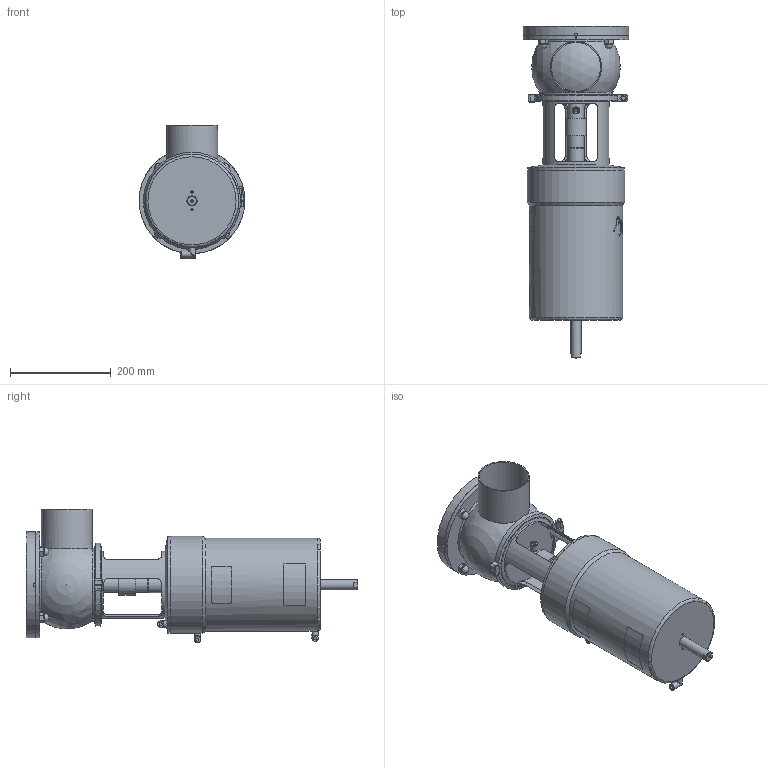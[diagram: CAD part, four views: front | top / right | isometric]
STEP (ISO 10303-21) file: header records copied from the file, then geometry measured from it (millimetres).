
FILE_DESCRIPTION (( 'STEP AP214' ), '1' );
FILE_NAME ('INNOVA T L W OD 4 WITH FLANGE_10.252.16.0005.STEP', '2024-08-21T11:30:49', ( '' ), ( '' ), 'SwSTEP 2.0', 'SolidWorks 2023', '' );
FILE_SCHEMA (( 'AUTOMOTIVE_DESIGN' ));
Length unit declared in the file: millimetre
Products named in the file (6): INNOVA T L W OD 4 WITH FLANGE_10.252.16.0005; 10.248.15.0003_DIN 100 _ OD 4"; 10.250.15.0002_Type T T3; 10.252.15.0001_OD 4"; 10.240.15.0001_DN 100; 10.240.15.0006_OD 4"
Assembly tree (5 placements, depth 2):
  INNOVA T L W OD 4 WITH FLANGE_10.252.16.0005
    10.240.15.0006_OD 4"
    10.248.15.0003_DIN 100 _ OD 4"
    10.252.15.0001_OD 4"
    10.250.15.0002_Type T T3
    10.240.15.0001_DN 100
Bounding box: 210 x 659 x 265 mm (x, y, z)
Volume: 12232125 mm3; surface area: 698446 mm2
Topology: 5 solids, 5 shells, 415 faces, 1089 edges, 711 vertices
Faces by surface type: plane 196, cylinder 109, bspline 82, cone 21, sphere 6, torus 1
Full cylindrical faces by diameter (mm): 4.2 x2, 5 x1, 6 x1, 6.15 x3, 8 x2, 10.5 x3, 12 x1, 12.5 x9, 14 x2, 16 x4, 20 x1, 30.5 x2, 32 x1, 41 x1, 97.4 x1, 101.6 x1, 133 x1, 134 x1, 144.5 x2, 156.5 x3, 168 x1, 185 x1, 192 x1, 193 x1, 210 x1
Entity records: 23890 total; most frequent: CARTESIAN_POINT 12832, ORIENTED_EDGE 1964, DIRECTION 1577, EDGE_CURVE 982, VERTEX_POINT 680, AXIS2_PLACEMENT_3D 592, EDGE_LOOP 528, FACE_OUTER_BOUND 465
